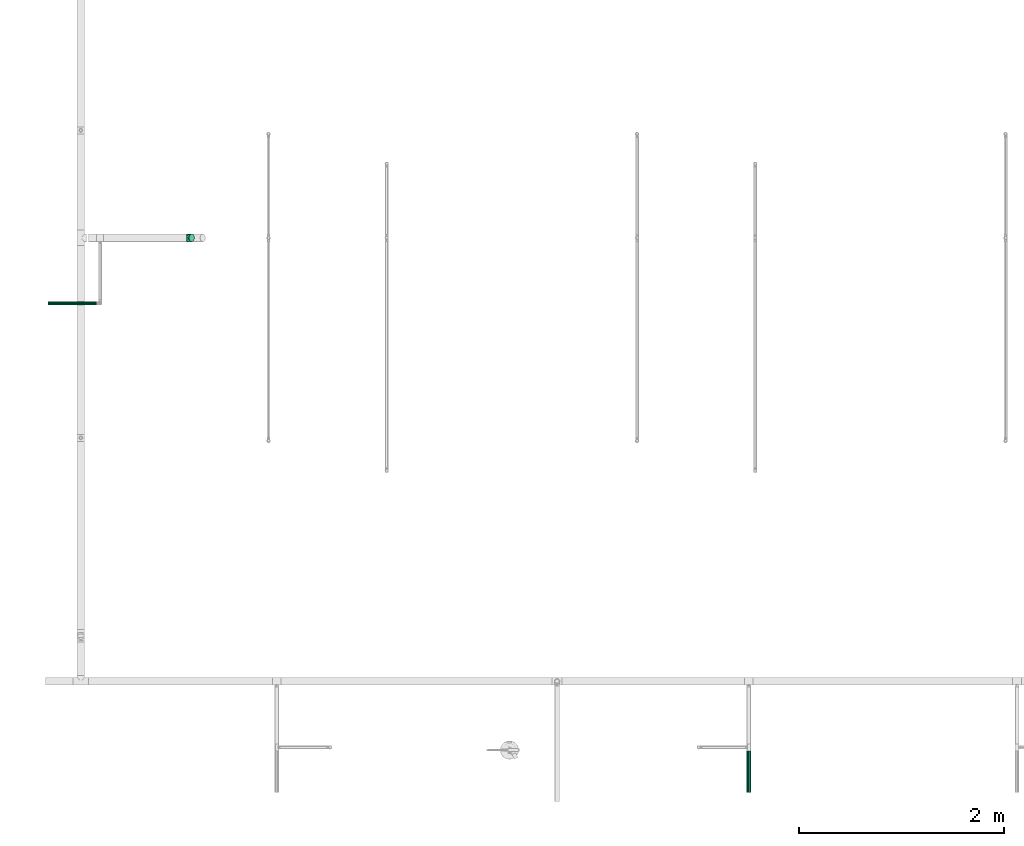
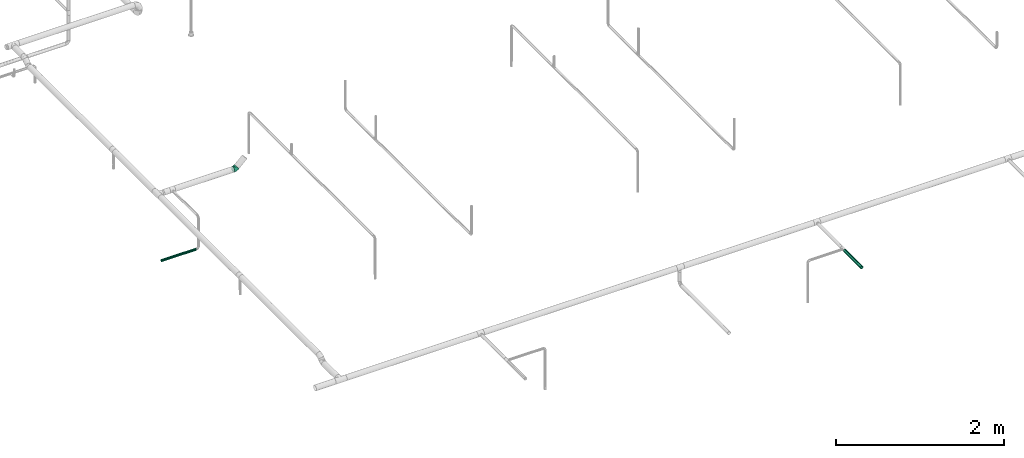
# One storey, part 83 of 95: 2 flow segments, 1 flow fitting.
"""IFC2X3 building model written with IfcOpenShell, lengths in millimetres."""

from ifc_helpers import new_model, entity, si_unit, converted_unit, derived_unit, direction, frame, origin_with_axes, place, context, subcontext, project, spatial, open_shell, faceted_brep, surface_model, source, transform, mapped, type_object, element, save


model = new_model("IFC2X3")

# Units and contexts
model_context = context("Model", 3, precision=0.01, world=frame((0.0, 4.29681676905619e-09, 0.0)), true_north=direction((4.01073788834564e-13, 1.0)))
plan_context = context("Plan", 3, precision=0.01, world=frame((0.0, 4.29681676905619e-09, 0.0)), true_north=direction((4.01073788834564e-13, 1.0)))
body_context = subcontext(model_context, "Body", "Model", "MODEL_VIEW")
ifc_project = project(units=[converted_unit("PLANEANGLEUNIT", "DEGREE", entity("IfcPositiveLengthMeasure", 0.0174532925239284), si_unit("PLANEANGLEUNIT", "RADIAN"), dimensions=[0, 0, 0, 0, 0, 0, 0]), si_unit("AREAUNIT", "SQUARE_METRE"), si_unit("LENGTHUNIT", "METRE", prefix="MILLI"), si_unit("MASSUNIT", "GRAM", prefix="KILO"), si_unit("POWERUNIT", "WATT"), si_unit("PRESSUREUNIT", "PASCAL"), si_unit("FORCEUNIT", "NEWTON", prefix="KILO"), si_unit("ELECTRICVOLTAGEUNIT", "VOLT"), si_unit("ELECTRICCURRENTUNIT", "AMPERE"), si_unit("THERMODYNAMICTEMPERATUREUNIT", "DEGREE_CELSIUS"), si_unit("TIMEUNIT", "SECOND"), si_unit("VOLUMEUNIT", "CUBIC_METRE"), derived_unit("LINEARVELOCITYUNIT", [(si_unit("LENGTHUNIT", "METRE"), 1), (si_unit("TIMEUNIT", "SECOND"), -1)]), derived_unit("VOLUMETRICFLOWRATEUNIT", [(si_unit("VOLUMEUNIT", "CUBIC_METRE"), 1), (si_unit("TIMEUNIT", "SECOND"), -1)]), derived_unit("THERMALTRANSMITTANCEUNIT", [(si_unit("POWERUNIT", "WATT"), 1), (si_unit("THERMODYNAMICTEMPERATUREUNIT", "KELVIN"), -1), (si_unit("AREAUNIT", "SQUARE_METRE"), -1)]), derived_unit("SOUNDPRESSUREUNIT", [(si_unit("PRESSUREUNIT", "PASCAL"), 1)])], contexts=[model_context, plan_context])

# Site, building, storey
site_placement = place(None, frame((0.0, -4.29681676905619e-09, 0.0), z_axis=(0.0, 0.0, 1.0), x_axis=(1.0, 0.0, 0.0)))
site = spatial("IfcSite", under=ifc_project, at=site_placement, CompositionType="ELEMENT")
building_placement = place(site_placement, frame((0.0, 4.29681676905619e-09, 0.0), z_axis=(0.0, 0.0, 1.0), x_axis=(1.0, 0.0, 0.0)))
building = spatial("IfcBuilding", under=site, at=building_placement, Name="mc-building", CompositionType="ELEMENT")
storey_placement = place(building_placement, frame((0.0, 0.0, 210900.0), z_axis=(0.0, 0.0, 1.0), x_axis=(1.0, 0.0, 0.0)))
storey = spatial("IfcBuildingStorey", under=building, at=storey_placement, Name="Nivå F", CompositionType="ELEMENT", Elevation=210900.0)

# Flow fitting
pipe_fitting_type = type_object("IfcPipeFittingType", Name="magi_pipe_fe_elbow_short_001", PredefinedType="BEND")
shared_shape = source(origin_with_axes(), body_context, "Body", "SurfaceModel", [
    surface_model("IfcShellBasedSurfaceModel", [(-30.80606, 19.05, -32.99557), (-30.80606, 9.86101, -36.80177), (-30.80606, 0.0, -38.1), (-30.80606, 26.94077, -26.94077), (-30.80606, 36.80177, -9.86101), (-30.80606, 32.99557, -19.05), (-30.80606, -36.80177, 9.86101), (-30.80606, -9.86101, -36.80177), (-30.80606, -26.94077, -26.94077), (-30.80606, -32.99557, -19.05), (-30.80606, -19.05, -32.99557), (-30.80606, -36.80177, -9.86101), (-30.80606, -38.1, 0.0), (-30.80606, 36.80177, 9.86101), (-30.80606, 26.94077, 26.94077), (-30.80606, 32.99557, 19.05), (-30.80606, 9.86101, 36.80177), (-30.80606, 19.05, 32.99557), (-30.80606, -19.05, 32.99557), (-30.80606, 0.0, 38.1), (-30.80606, -32.99557, 19.05), (-30.80606, -26.94077, 26.94077), (-30.80606, -9.86101, 36.80177), (-30.80606, 38.1, 0.0), (-3.42544, 47.87119, -9.86101), (22.15072, 21.40932, -38.1), (15.29761, 28.49976, -36.80177), (3.42767, 40.78075, -26.94077), (8.91153, 35.10699, -32.99557), (-0.78024, 45.13438, -19.05), (29.00384, 14.31889, -36.80177), (35.38992, 7.71165, -32.99557), (48.62912, -5.98602, 0.0), (40.87378, 2.03789, -26.94077), (45.08169, -2.31574, -19.05), (47.72689, -5.05255, -9.86101), (47.72689, -5.05255, 9.86101), (-4.32767, 48.80466, 0.0), (-3.42544, 47.87119, 9.86101), (-0.78024, 45.13438, 19.05), (3.42767, 40.78075, 26.94077), (8.91153, 35.10699, 32.99557), (15.29761, 28.49976, 36.80177), (22.15072, 21.40932, 38.1), (40.87378, 2.03789, 26.94077), (45.08169, -2.31574, 19.05), (35.38992, 7.71165, 32.99557), (29.00384, 14.31889, 36.80177), (-11.62183, -29.13674, 22.33132), (-6.43639, -33.02518, 13.2797), (9.58993, -23.72107, 21.31788), (-11.96366, -35.6737, 0.0), (-1.84984, -34.37136, 0.0), (-7.67527, -35.15408, 6.5594), (-7.97264, -21.56816, 29.42811), (28.60572, -12.87359, 22.33132), (-14.77383, -14.00729, 34.83972), (3.90849, -9.66779, 34.38036), (6.72975, 17.63592, 37.51706), (-10.82812, -3.68308, 37.60145), (-3.47048, 8.58437, 37.9596), (-18.68535, 5.2572, 37.86454), (-10.51161, 26.00087, 31.06835), (-16.0765, 31.95863, 24.02422), (20.3576, 0.19561, 34.83972), (-14.00261, 15.85161, 35.60685), (14.23125, -25.43115, 15.13892), (11.67952, -28.88975, 8.44225), (-15.27273, 37.77768, 15.60743), (29.94987, -19.94303, 6.5594), (33.39451, -17.33634, 0.0), (-15.04264, 40.58756, 7.98076), (27.57955, -19.27325, 13.2797), (10.34546, 4.87696, 37.60145), (20.72187, -9.96757, 29.42811), (1.3959, 22.66565, 35.54129), (-16.52588, 40.8774, 0.0), (6.28487, -15.54586, 30.5549), (11.68368, -28.90005, 0.0), (25.2172, -23.42873, 0.0), (-10.82812, -3.68308, -37.60145), (-7.67527, -35.15408, -6.5594), (11.67952, -28.88975, -8.44225), (10.34546, 4.87696, -37.60145), (-17.0954, 8.00392, -37.51706), (-10.65071, 34.15216, -24.02422), (20.72187, -9.96757, -29.42811), (-15.27273, 37.77768, -15.60743), (27.57955, -19.27325, -13.2797), (-17.39095, 39.63819, -7.98076), (-0.948, 21.12932, -35.60685), (-16.75567, 15.32735, -35.54129), (-6.43639, -33.02518, -13.27969), (-10.51161, 26.00087, -31.06835), (28.60572, -12.87359, -22.33132), (9.58993, -23.72107, -21.31788), (-11.62183, -29.13674, -22.33132), (-7.97264, -21.56816, -29.42811), (6.28487, -15.54586, -30.5549), (-14.77383, -14.00729, -34.83972), (20.3576, 0.19561, -34.83972), (3.90849, -9.66779, -34.38036), (29.94988, -19.94303, -6.5594), (9.78187, 16.7659, -37.86454), (7.4411, -28.17626, -15.13892), (-3.47048, 8.58437, -37.9596)], [open_shell([[[0, 1, 2]], [[3, 0, 2]], [[4, 5, 3]], [[6, 3, 2]], [[6, 2, 7]], [[8, 9, 10]], [[10, 9, 6]], [[11, 12, 9]], [[9, 12, 6]], [[10, 6, 7]], [[3, 6, 4]], [[13, 4, 14]], [[15, 13, 14]], [[16, 17, 14]], [[18, 14, 4]], [[16, 14, 19]], [[20, 21, 6]], [[6, 21, 4]], [[22, 19, 18]], [[18, 4, 21]], [[14, 18, 19]], [[23, 4, 13]], [[24, 25, 26]], [[27, 26, 28]], [[27, 29, 24]], [[27, 24, 26]], [[25, 24, 30]], [[31, 32, 33]], [[32, 31, 30]], [[34, 32, 35]], [[32, 34, 33]], [[30, 24, 32]], [[24, 36, 32]], [[37, 38, 39]], [[37, 39, 40]], [[40, 41, 42]], [[40, 42, 37]], [[37, 42, 43]], [[36, 44, 45]], [[44, 36, 46]], [[46, 43, 47]], [[43, 46, 36]], [[36, 37, 43]], [[37, 36, 24]], [[48, 49, 50]], [[51, 52, 53]], [[18, 21, 54]], [[45, 44, 55]], [[56, 54, 57]], [[48, 21, 20]], [[42, 58, 43]], [[22, 18, 56]], [[59, 60, 61]], [[19, 22, 59]], [[14, 62, 63]], [[46, 47, 64]], [[61, 16, 19]], [[17, 65, 62]], [[6, 51, 53]], [[41, 40, 62]], [[66, 49, 67]], [[62, 14, 17]], [[48, 54, 21]], [[15, 63, 68]], [[13, 15, 68]], [[36, 69, 70]], [[71, 23, 13]], [[72, 66, 67]], [[49, 53, 67]], [[17, 16, 65]], [[43, 58, 73]], [[44, 46, 74]], [[39, 38, 68]], [[73, 47, 43]], [[54, 48, 50]], [[72, 45, 55]], [[75, 58, 42]], [[74, 46, 64]], [[49, 48, 20]], [[69, 36, 72]], [[74, 55, 44]], [[61, 65, 16]], [[55, 74, 50]], [[13, 68, 71]], [[20, 6, 49]], [[76, 71, 37]], [[54, 77, 57]], [[38, 71, 68]], [[57, 73, 59]], [[39, 68, 63]], [[57, 64, 73]], [[39, 63, 40]], [[60, 59, 73]], [[42, 41, 75]], [[75, 62, 65]], [[56, 59, 22]], [[15, 14, 63]], [[72, 36, 45]], [[55, 50, 66]], [[77, 50, 74]], [[40, 63, 62]], [[62, 75, 41]], [[60, 75, 65]], [[54, 56, 18]], [[59, 56, 57]], [[73, 64, 47]], [[74, 64, 57]], [[6, 12, 51]], [[67, 52, 78]], [[6, 53, 49]], [[52, 67, 53]], [[69, 67, 79]], [[70, 69, 79]], [[70, 32, 36]], [[67, 69, 72]], [[75, 60, 58]], [[58, 60, 73]], [[59, 61, 19]], [[65, 61, 60]], [[50, 77, 54]], [[74, 57, 77]], [[37, 71, 38]], [[71, 76, 23]], [[55, 66, 72]], [[49, 66, 50]], [[79, 67, 78]], [[7, 2, 80]], [[52, 81, 82]], [[25, 30, 83]], [[84, 2, 1]], [[5, 85, 3]], [[31, 33, 86]], [[87, 85, 5]], [[34, 35, 88]], [[4, 89, 87]], [[28, 26, 90]], [[11, 81, 51]], [[0, 91, 1]], [[81, 11, 92]], [[27, 93, 85]], [[86, 94, 95]], [[96, 92, 9]], [[8, 10, 97]], [[98, 95, 97]], [[11, 9, 92]], [[8, 96, 9]], [[99, 10, 7]], [[100, 83, 30]], [[24, 29, 87]], [[101, 99, 80]], [[23, 76, 89]], [[88, 94, 34]], [[37, 24, 89]], [[101, 80, 83]], [[27, 28, 93]], [[87, 5, 4]], [[29, 85, 87]], [[99, 97, 10]], [[90, 93, 28]], [[84, 80, 2]], [[93, 90, 91]], [[3, 93, 0]], [[35, 70, 102]], [[103, 26, 25]], [[100, 30, 31]], [[104, 88, 82]], [[34, 94, 33]], [[101, 100, 86]], [[94, 86, 33]], [[105, 103, 83]], [[95, 94, 88]], [[105, 83, 80]], [[102, 70, 79]], [[103, 90, 26]], [[91, 84, 1]], [[81, 92, 82]], [[96, 97, 95]], [[86, 98, 101]], [[97, 96, 8]], [[24, 87, 89]], [[96, 95, 104]], [[29, 27, 85]], [[3, 85, 93]], [[93, 91, 0]], [[105, 91, 90]], [[80, 99, 7]], [[97, 99, 101]], [[86, 100, 31]], [[83, 100, 101]], [[51, 81, 52]], [[51, 12, 11]], [[104, 82, 92]], [[102, 82, 88]], [[82, 79, 78]], [[35, 32, 70]], [[82, 102, 79]], [[35, 102, 88]], [[91, 105, 84]], [[84, 105, 80]], [[83, 103, 25]], [[90, 103, 105]], [[95, 98, 86]], [[97, 101, 98]], [[23, 89, 4]], [[89, 76, 37]], [[96, 104, 92]], [[88, 104, 95]], [[52, 82, 78]]])]),
])
flow_fitting_placement = place(storey_placement, frame((521926.38639, 446191.7762, 4370.29999999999), z_axis=(0.0, 1.0, 0.0), x_axis=(-0.719037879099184, 0.0, -0.694970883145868)))
element("IfcFlowFitting", 1, at=flow_fitting_placement, inside=storey, type_object=pipe_fitting_type, Name="magi_pipe_fe_elbow_short_001", context=body_context, shape_type="MappedRepresentation", body=[
    mapped(shared_shape, transform((0.0, 0.0, 0.0), scale=1.0)),
])

# Flow segments
pipe_segment_type = type_object("IfcPipeSegmentType", Name="Stålrør normaltykke", PredefinedType="RIGIDSEGMENT")
flow_segment_1_placement = place(storey_placement, frame((519724.03266, 445554.73125, 3906.03085000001), z_axis=(0.0, 0.0, 1.0), x_axis=(1.0, 0.0, 0.0)))
element("IfcFlowSegment", 2, at=flow_segment_1_placement, inside=storey, type_object=pipe_segment_type, Name="Stålrør normaltykke", context=body_context, shape_type="Brep", body=[
    faceted_brep([(820.954840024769, 14.6736355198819, -2.58735784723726), (820.95484002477, 14.9, 0.0), (1297.4, 14.9, 0.0), (1297.4, 14.6736355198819, -2.58735784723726), (820.954840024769, 14.00142004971, -5.09610013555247), (1297.4, 14.00142004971, -5.09610013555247), (820.954840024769, 12.9037785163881, -7.45), (1297.4, 12.9037785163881, -7.45000000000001), (820.954840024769, 11.4140622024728, -9.57753538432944), (1297.4, 11.4140622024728, -9.57753538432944), (820.954840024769, 9.57753538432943, -11.4140622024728), (1297.4, 9.57753538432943, -11.4140622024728), (820.954840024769, 7.45, -12.9037785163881), (1297.4, 7.45, -12.9037785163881), (820.954840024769, 5.09610013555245, -14.00142004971), (1297.4, 5.09610013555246, -14.00142004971), (820.954840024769, 2.58735784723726, -14.6736355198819), (1297.4, 2.58735784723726, -14.6736355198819), (820.954840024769, -2.73708559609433e-15, -14.9), (1297.4, -2.73708559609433e-15, -14.9), (820.954840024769, -2.58735784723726, -14.6736355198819), (1297.4, -2.58735784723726, -14.6736355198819), (820.954840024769, -5.09610013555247, -14.00142004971), (1297.4, -5.09610013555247, -14.00142004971), (820.954840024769, -7.45, -12.9037785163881), (1297.4, -7.45000000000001, -12.9037785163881), (820.954840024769, -9.57753538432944, -11.4140622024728), (1297.4, -9.57753538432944, -11.4140622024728), (820.954840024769, -11.4140622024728, -9.57753538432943), (1297.4, -11.4140622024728, -9.57753538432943), (820.954840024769, -12.9037785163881, -7.44999999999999), (1297.4, -12.9037785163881, -7.44999999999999), (820.954840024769, -14.00142004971, -5.09610013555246), (1297.4, -14.00142004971, -5.09610013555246), (820.954840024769, -14.6736355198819, -2.58735784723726), (1297.4, -14.6736355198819, -2.58735784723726), (820.954840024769, -14.9, 1.82472373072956e-15), (1297.4, -14.9, 1.82472373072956e-15), (820.954840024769, -14.6736355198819, 2.58735784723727), (1297.4, -14.6736355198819, 2.58735784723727), (820.954840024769, -14.00142004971, 5.09610013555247), (1297.4, -14.00142004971, 5.09610013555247), (820.954840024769, -12.9037785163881, 7.45), (1297.4, -12.9037785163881, 7.45), (820.954840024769, -11.4140622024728, 9.57753538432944), (1297.4, -11.4140622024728, 9.57753538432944), (820.954840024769, -9.57753538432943, 11.4140622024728), (1297.4, -9.57753538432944, 11.4140622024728), (820.954840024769, -7.44999999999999, 12.9037785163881), (1297.4, -7.45, 12.9037785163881), (820.954840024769, -5.09610013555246, 14.00142004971), (1297.4, -5.09610013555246, 14.00142004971), (820.954840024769, -2.58735784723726, 14.6736355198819), (1297.4, -2.58735784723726, 14.6736355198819), (820.954840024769, 9.12361865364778e-16, 14.9), (1297.4, 9.12361865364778e-16, 14.9), (820.954840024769, 2.58735784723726, 14.6736355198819), (1297.4, 2.58735784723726, 14.6736355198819), (820.954840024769, 5.09610013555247, 14.00142004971), (1297.4, 5.09610013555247, 14.00142004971), (820.954840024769, 7.45, 12.9037785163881), (1297.4, 7.45, 12.9037785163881), (820.954840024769, 9.57753538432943, 11.4140622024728), (1297.4, 9.57753538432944, 11.4140622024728), (820.954840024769, 11.4140622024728, 9.57753538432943), (1297.4, 11.4140622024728, 9.57753538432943), (820.954840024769, 12.9037785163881, 7.45), (1297.4, 12.9037785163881, 7.45), (820.954840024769, 14.00142004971, 5.09610013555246), (1297.4, 14.00142004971, 5.09610013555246), (820.954840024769, 14.6736355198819, 2.58735784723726), (1297.4, 14.6736355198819, 2.58735784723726), (820.954840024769, 16.9, 0.0), (820.95484002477, 16.6432510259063, -2.93465420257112), (1297.4, 16.6432510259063, -2.93465420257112), (1297.4, 16.9, 0.0), (820.954840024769, 16.6432510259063, 2.93465420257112), (1297.4, 16.6432510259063, 2.93465420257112), (820.954840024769, 15.8808052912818, 5.7801404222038), (1297.4, 15.8808052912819, 5.7801404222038), (820.954840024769, 14.635829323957, 8.45), (1297.4, 14.635829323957, 8.45), (820.954840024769, 12.9461510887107, 10.8631106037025), (1297.4, 12.9461510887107, 10.8631106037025), (820.954840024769, 10.8631106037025, 12.9461510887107), (1297.4, 10.8631106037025, 12.9461510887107), (820.954840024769, 8.45, 14.635829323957), (1297.4, 8.45, 14.635829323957), (820.954840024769, 5.7801404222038, 15.8808052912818), (1297.4, 5.7801404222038, 15.8808052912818), (820.954840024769, 2.93465420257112, 16.6432510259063), (1297.4, 2.93465420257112, 16.6432510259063), (820.954840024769, 1.03482654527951e-15, 16.9), (1297.4, 1.03482654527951e-15, 16.9), (820.954840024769, -2.93465420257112, 16.6432510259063), (1297.4, -2.93465420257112, 16.6432510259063), (820.954840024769, -5.7801404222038, 15.8808052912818), (1297.4, -5.7801404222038, 15.8808052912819), (820.954840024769, -8.45, 14.635829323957), (1297.4, -8.45, 14.635829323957), (820.954840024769, -10.8631106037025, 12.9461510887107), (1297.4, -10.8631106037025, 12.9461510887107), (820.954840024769, -12.9461510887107, 10.8631106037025), (1297.4, -12.9461510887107, 10.8631106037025), (820.954840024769, -14.635829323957, 8.45), (1297.4, -14.635829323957, 8.45), (820.954840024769, -15.8808052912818, 5.7801404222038), (1297.4, -15.8808052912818, 5.7801404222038), (820.954840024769, -16.6432510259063, 2.93465420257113), (1297.4, -16.6432510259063, 2.93465420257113), (820.954840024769, -16.9, 2.06965309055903e-15), (1297.4, -16.9, 2.06965309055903e-15), (820.954840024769, -16.6432510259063, -2.93465420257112), (1297.4, -16.6432510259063, -2.93465420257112), (820.954840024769, -15.8808052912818, -5.7801404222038), (1297.4, -15.8808052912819, -5.7801404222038), (820.954840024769, -14.635829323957, -8.44999999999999), (1297.4, -14.635829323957, -8.44999999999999), (820.954840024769, -12.9461510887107, -10.8631106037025), (1297.4, -12.9461510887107, -10.8631106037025), (820.954840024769, -10.8631106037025, -12.9461510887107), (1297.4, -10.8631106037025, -12.9461510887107), (820.954840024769, -8.45000000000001, -14.635829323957), (1297.4, -8.45000000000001, -14.635829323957), (820.954840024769, -5.78014042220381, -15.8808052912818), (1297.4, -5.78014042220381, -15.8808052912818), (820.954840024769, -2.93465420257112, -16.6432510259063), (1297.4, -2.93465420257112, -16.6432510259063), (820.954840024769, -3.10447963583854e-15, -16.9), (1297.4, -3.10447963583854e-15, -16.9), (820.954840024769, 2.93465420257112, -16.6432510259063), (1297.4, 2.93465420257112, -16.6432510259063), (820.954840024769, 5.78014042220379, -15.8808052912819), (1297.4, 5.78014042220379, -15.8808052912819), (820.954840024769, 8.45, -14.635829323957), (1297.4, 8.45, -14.635829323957), (820.954840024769, 10.8631106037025, -12.9461510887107), (1297.4, 10.8631106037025, -12.9461510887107), (820.954840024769, 12.9461510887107, -10.8631106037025), (1297.4, 12.9461510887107, -10.8631106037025), (820.954840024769, 14.635829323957, -8.45000000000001), (1297.4, 14.635829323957, -8.45000000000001), (820.954840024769, 15.8808052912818, -5.78014042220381), (1297.4, 15.8808052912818, -5.78014042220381)], [[[0, 1, 2, 3]], [[4, 0, 3, 5]], [[6, 4, 5, 7]], [[8, 6, 7, 9]], [[10, 8, 9, 11]], [[12, 10, 11, 13]], [[14, 12, 13, 15]], [[16, 14, 15, 17]], [[18, 16, 17, 19]], [[20, 18, 19, 21]], [[22, 20, 21, 23]], [[24, 22, 23, 25]], [[26, 24, 25, 27]], [[28, 26, 27, 29]], [[30, 28, 29, 31]], [[32, 30, 31, 33]], [[34, 32, 33, 35]], [[36, 34, 35, 37]], [[38, 36, 37, 39]], [[40, 38, 39, 41]], [[42, 40, 41, 43]], [[44, 42, 43, 45]], [[46, 44, 45, 47]], [[48, 46, 47, 49]], [[50, 48, 49, 51]], [[52, 50, 51, 53]], [[54, 52, 53, 55]], [[56, 54, 55, 57]], [[58, 56, 57, 59]], [[60, 58, 59, 61]], [[62, 60, 61, 63]], [[64, 62, 63, 65]], [[66, 64, 65, 67]], [[68, 66, 67, 69]], [[70, 68, 69, 71]], [[1, 70, 71, 2]], [[72, 73, 74, 75]], [[76, 72, 75, 77]], [[78, 76, 77, 79]], [[80, 78, 79, 81]], [[82, 80, 81, 83]], [[84, 82, 83, 85]], [[86, 84, 85, 87]], [[88, 86, 87, 89]], [[90, 88, 89, 91]], [[92, 90, 91, 93]], [[94, 92, 93, 95]], [[96, 94, 95, 97]], [[98, 96, 97, 99]], [[100, 98, 99, 101]], [[102, 100, 101, 103]], [[104, 102, 103, 105]], [[106, 104, 105, 107]], [[108, 106, 107, 109]], [[110, 108, 109, 111]], [[112, 110, 111, 113]], [[114, 112, 113, 115]], [[116, 114, 115, 117]], [[118, 116, 117, 119]], [[120, 118, 119, 121]], [[122, 120, 121, 123]], [[124, 122, 123, 125]], [[126, 124, 125, 127]], [[128, 126, 127, 129]], [[130, 128, 129, 131]], [[132, 130, 131, 133]], [[134, 132, 133, 135]], [[136, 134, 135, 137]], [[138, 136, 137, 139]], [[140, 138, 139, 141]], [[142, 140, 141, 143]], [[73, 142, 143, 74]], [[75, 74, 143, 141, 139, 137, 135, 133, 131, 129, 127, 125, 123, 121, 119, 117, 115, 113, 111, 109, 107, 105, 103, 101, 99, 97, 95, 93, 91, 89, 87, 85, 83, 81, 79, 77], [2, 71, 69, 67, 65, 63, 61, 59, 57, 55, 53, 51, 49, 47, 45, 43, 41, 39, 37, 35, 33, 31, 29, 27, 25, 23, 21, 19, 17, 15, 13, 11, 9, 7, 5, 3]], [[76, 78, 80, 82, 84, 86, 88, 90, 92, 94, 96, 98, 100, 102, 104, 106, 108, 110, 112, 114, 116, 118, 120, 122, 124, 126, 128, 130, 132, 134, 136, 138, 140, 142, 73, 72], [4, 6, 8, 10, 12, 14, 16, 18, 20, 22, 24, 26, 28, 30, 32, 34, 36, 38, 40, 42, 44, 46, 48, 50, 52, 54, 56, 58, 60, 62, 64, 66, 68, 70, 1, 0]]], orient=[[False], [False], [False], [False], [False], [False], [False], [False], [False], [False], [False], [False], [False], [False], [False], [False], [False], [False], [False], [False], [False], [False], [False], [False], [False], [False], [False], [False], [False], [False], [False], [False], [False], [False], [False], [False], [False], [False], [False], [False], [False], [False], [False], [False], [False], [False], [False], [False], [False], [False], [False], [False], [False], [False], [False], [False], [False], [False], [False], [False], [False], [False], [False], [False], [False], [False], [False], [False], [False], [False], [False], [False], [False, False], [False, False]]),
])
flow_segment_2_placement = place(storey_placement, frame((527390.10162, 441181.04363, 4310.0), z_axis=(0.0, 0.0, 1.0), x_axis=(0.0, -1.0, 0.0)))
element("IfcFlowSegment", 3, at=flow_segment_2_placement, inside=storey, type_object=pipe_segment_type, Name="Stålrør normaltykke", context=body_context, shape_type="Brep", body=[
    faceted_brep([(405.914980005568, 19.2, 0.0), (405.914980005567, 18.9083088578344, -3.33404501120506), (0.0, 18.9083088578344, -3.33404501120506), (0.0, 19.2, 0.0), (405.914980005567, 18.0420983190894, -6.56678675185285), (0.0, 18.0420983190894, -6.56678675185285), (405.914980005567, 16.6276877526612, -9.60000000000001), (0.0, 16.6276877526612, -9.60000000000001), (405.914980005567, 14.7080533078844, -12.3415221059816), (0.0, 14.7080533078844, -12.3415221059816), (405.914980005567, 12.3415221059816, -14.7080533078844), (0.0, 12.3415221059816, -14.7080533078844), (405.914980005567, 9.6, -16.6276877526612), (0.0, 9.6, -16.6276877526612), (405.914980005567, 6.56678675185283, -18.0420983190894), (0.0, 6.56678675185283, -18.0420983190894), (405.914980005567, 3.33404501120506, -18.9083088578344), (0.0, 3.33404501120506, -18.9083088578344), (405.914980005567, -3.52698278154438e-15, -19.2), (0.0, -3.52698278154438e-15, -19.2), (405.914980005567, -3.33404501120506, -18.9083088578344), (0.0, -3.33404501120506, -18.9083088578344), (405.914980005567, -6.56678675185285, -18.0420983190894), (0.0, -6.56678675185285, -18.0420983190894), (405.914980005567, -9.60000000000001, -16.6276877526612), (0.0, -9.60000000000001, -16.6276877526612), (405.914980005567, -12.3415221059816, -14.7080533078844), (0.0, -12.3415221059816, -14.7080533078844), (405.914980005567, -14.7080533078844, -12.3415221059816), (0.0, -14.7080533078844, -12.3415221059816), (405.914980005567, -16.6276877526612, -9.59999999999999), (0.0, -16.6276877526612, -9.59999999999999), (405.914980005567, -18.0420983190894, -6.56678675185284), (0.0, -18.0420983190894, -6.56678675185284), (405.914980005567, -18.9083088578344, -3.33404501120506), (0.0, -18.9083088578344, -3.33404501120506), (405.914980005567, -19.2, 2.35132185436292e-15), (0.0, -19.2, 2.35132185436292e-15), (405.914980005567, -18.9083088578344, 3.33404501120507), (0.0, -18.9083088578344, 3.33404501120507), (405.914980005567, -18.0420983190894, 6.56678675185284), (0.0, -18.0420983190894, 6.56678675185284), (405.914980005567, -16.6276877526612, 9.6), (0.0, -16.6276877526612, 9.6), (405.914980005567, -14.7080533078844, 12.3415221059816), (0.0, -14.7080533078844, 12.3415221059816), (405.914980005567, -12.3415221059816, 14.7080533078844), (0.0, -12.3415221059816, 14.7080533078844), (405.914980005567, -9.6, 16.6276877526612), (0.0, -9.6, 16.6276877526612), (405.914980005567, -6.56678675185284, 18.0420983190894), (0.0, -6.56678675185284, 18.0420983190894), (405.914980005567, -3.33404501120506, 18.9083088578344), (0.0, -3.33404501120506, 18.9083088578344), (405.914980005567, 1.17566092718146e-15, 19.2), (0.0, 1.17566092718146e-15, 19.2), (405.914980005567, 3.33404501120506, 18.9083088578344), (0.0, 3.33404501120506, 18.9083088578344), (405.914980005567, 6.56678675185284, 18.0420983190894), (0.0, 6.56678675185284, 18.0420983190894), (405.914980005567, 9.6, 16.6276877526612), (0.0, 9.6, 16.6276877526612), (405.914980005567, 12.3415221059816, 14.7080533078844), (0.0, 12.3415221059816, 14.7080533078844), (405.914980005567, 14.7080533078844, 12.3415221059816), (0.0, 14.7080533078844, 12.3415221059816), (405.914980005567, 16.6276877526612, 9.6), (0.0, 16.6276877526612, 9.6), (405.914980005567, 18.0420983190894, 6.56678675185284), (0.0, 18.0420983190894, 6.56678675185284), (405.914980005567, 18.9083088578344, 3.33404501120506), (0.0, 18.9083088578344, 3.33404501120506), (405.914980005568, 20.8779243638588, -3.68134136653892), (405.914980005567, 21.2, 0.0), (0.0, 21.2, 0.0), (0.0, 20.8779243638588, -3.68134136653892), (405.914980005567, 20.8779243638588, 3.68134136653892), (0.0, 20.8779243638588, 3.68134136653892), (405.914980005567, 19.9214835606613, 7.25082703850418), (0.0, 19.9214835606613, 7.25082703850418), (405.914980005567, 18.3597385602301, 10.6), (0.0, 18.3597385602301, 10.6), (405.914980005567, 16.2401421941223, 13.6270973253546), (0.0, 16.2401421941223, 13.6270973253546), (405.914980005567, 13.6270973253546, 16.2401421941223), (0.0, 13.6270973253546, 16.2401421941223), (405.914980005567, 10.6, 18.3597385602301), (0.0, 10.6, 18.3597385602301), (405.914980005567, 7.25082703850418, 19.9214835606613), (0.0, 7.25082703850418, 19.9214835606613), (405.914980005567, 3.68134136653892, 20.8779243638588), (0.0, 3.68134136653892, 20.8779243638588), (405.914980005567, 1.29812560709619e-15, 21.2), (0.0, 1.29812560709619e-15, 21.2), (405.914980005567, -3.68134136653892, 20.8779243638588), (0.0, -3.68134136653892, 20.8779243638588), (405.914980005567, -7.25082703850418, 19.9214835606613), (0.0, -7.25082703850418, 19.9214835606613), (405.914980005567, -10.6, 18.3597385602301), (0.0, -10.6, 18.3597385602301), (405.914980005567, -13.6270973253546, 16.2401421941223), (0.0, -13.6270973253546, 16.2401421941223), (405.914980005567, -16.2401421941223, 13.6270973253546), (0.0, -16.2401421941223, 13.6270973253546), (405.914980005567, -18.3597385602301, 10.6), (0.0, -18.3597385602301, 10.6), (405.914980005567, -19.9214835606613, 7.25082703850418), (0.0, -19.9214835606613, 7.25082703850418), (405.914980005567, -20.8779243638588, 3.68134136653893), (0.0, -20.8779243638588, 3.68134136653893), (405.914980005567, -21.2, 2.59625121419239e-15), (0.0, -21.2, 2.59625121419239e-15), (405.914980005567, -20.8779243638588, -3.68134136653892), (0.0, -20.8779243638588, -3.68134136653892), (405.914980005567, -19.9214835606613, -7.25082703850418), (0.0, -19.9214835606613, -7.25082703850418), (405.914980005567, -18.3597385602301, -10.6), (0.0, -18.3597385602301, -10.6), (405.914980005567, -16.2401421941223, -13.6270973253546), (0.0, -16.2401421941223, -13.6270973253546), (405.914980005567, -13.6270973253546, -16.2401421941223), (0.0, -13.6270973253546, -16.2401421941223), (405.914980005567, -10.6, -18.3597385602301), (0.0, -10.6, -18.3597385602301), (405.914980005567, -7.25082703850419, -19.9214835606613), (0.0, -7.25082703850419, -19.9214835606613), (405.914980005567, -3.68134136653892, -20.8779243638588), (0.0, -3.68134136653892, -20.8779243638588), (405.914980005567, -3.89437682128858e-15, -21.2), (0.0, -3.89437682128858e-15, -21.2), (405.914980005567, 3.68134136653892, -20.8779243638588), (0.0, 3.68134136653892, -20.8779243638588), (405.914980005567, 7.25082703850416, -19.9214835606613), (0.0, 7.25082703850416, -19.9214835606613), (405.914980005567, 10.6, -18.3597385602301), (0.0, 10.6, -18.3597385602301), (405.914980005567, 13.6270973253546, -16.2401421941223), (0.0, 13.6270973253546, -16.2401421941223), (405.914980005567, 16.2401421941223, -13.6270973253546), (0.0, 16.2401421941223, -13.6270973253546), (405.914980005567, 18.3597385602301, -10.6), (0.0, 18.3597385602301, -10.6), (405.914980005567, 19.9214835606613, -7.25082703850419), (0.0, 19.9214835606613, -7.25082703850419)], [[[0, 1, 2, 3]], [[1, 4, 5, 2]], [[4, 6, 7, 5]], [[6, 8, 9, 7]], [[8, 10, 11, 9]], [[10, 12, 13, 11]], [[12, 14, 15, 13]], [[14, 16, 17, 15]], [[16, 18, 19, 17]], [[18, 20, 21, 19]], [[20, 22, 23, 21]], [[22, 24, 25, 23]], [[24, 26, 27, 25]], [[26, 28, 29, 27]], [[28, 30, 31, 29]], [[30, 32, 33, 31]], [[32, 34, 35, 33]], [[34, 36, 37, 35]], [[36, 38, 39, 37]], [[38, 40, 41, 39]], [[40, 42, 43, 41]], [[42, 44, 45, 43]], [[44, 46, 47, 45]], [[46, 48, 49, 47]], [[48, 50, 51, 49]], [[50, 52, 53, 51]], [[52, 54, 55, 53]], [[54, 56, 57, 55]], [[56, 58, 59, 57]], [[58, 60, 61, 59]], [[60, 62, 63, 61]], [[62, 64, 65, 63]], [[64, 66, 67, 65]], [[66, 68, 69, 67]], [[68, 70, 71, 69]], [[70, 0, 3, 71]], [[72, 73, 74, 75]], [[73, 76, 77, 74]], [[76, 78, 79, 77]], [[78, 80, 81, 79]], [[80, 82, 83, 81]], [[82, 84, 85, 83]], [[84, 86, 87, 85]], [[86, 88, 89, 87]], [[88, 90, 91, 89]], [[90, 92, 93, 91]], [[92, 94, 95, 93]], [[94, 96, 97, 95]], [[96, 98, 99, 97]], [[98, 100, 101, 99]], [[100, 102, 103, 101]], [[102, 104, 105, 103]], [[104, 106, 107, 105]], [[106, 108, 109, 107]], [[108, 110, 111, 109]], [[110, 112, 113, 111]], [[112, 114, 115, 113]], [[114, 116, 117, 115]], [[116, 118, 119, 117]], [[118, 120, 121, 119]], [[120, 122, 123, 121]], [[122, 124, 125, 123]], [[124, 126, 127, 125]], [[126, 128, 129, 127]], [[128, 130, 131, 129]], [[130, 132, 133, 131]], [[132, 134, 135, 133]], [[134, 136, 137, 135]], [[136, 138, 139, 137]], [[138, 140, 141, 139]], [[140, 142, 143, 141]], [[142, 72, 75, 143]], [[75, 74, 77, 79, 81, 83, 85, 87, 89, 91, 93, 95, 97, 99, 101, 103, 105, 107, 109, 111, 113, 115, 117, 119, 121, 123, 125, 127, 129, 131, 133, 135, 137, 139, 141, 143], [3, 2, 5, 7, 9, 11, 13, 15, 17, 19, 21, 23, 25, 27, 29, 31, 33, 35, 37, 39, 41, 43, 45, 47, 49, 51, 53, 55, 57, 59, 61, 63, 65, 67, 69, 71]], [[142, 140, 138, 136, 134, 132, 130, 128, 126, 124, 122, 120, 118, 116, 114, 112, 110, 108, 106, 104, 102, 100, 98, 96, 94, 92, 90, 88, 86, 84, 82, 80, 78, 76, 73, 72], [70, 68, 66, 64, 62, 60, 58, 56, 54, 52, 50, 48, 46, 44, 42, 40, 38, 36, 34, 32, 30, 28, 26, 24, 22, 20, 18, 16, 14, 12, 10, 8, 6, 4, 1, 0]]], orient=[[False], [False], [False], [False], [False], [False], [False], [False], [False], [False], [False], [False], [False], [False], [False], [False], [False], [False], [False], [False], [False], [False], [False], [False], [False], [False], [False], [False], [False], [False], [False], [False], [False], [False], [False], [False], [False], [False], [False], [False], [False], [False], [False], [False], [False], [False], [False], [False], [False], [False], [False], [False], [False], [False], [False], [False], [False], [False], [False], [False], [False], [False], [False], [False], [False], [False], [False], [False], [False], [False], [False], [False], [False, False], [False, False]]),
])

save(model, "model.ifc")
